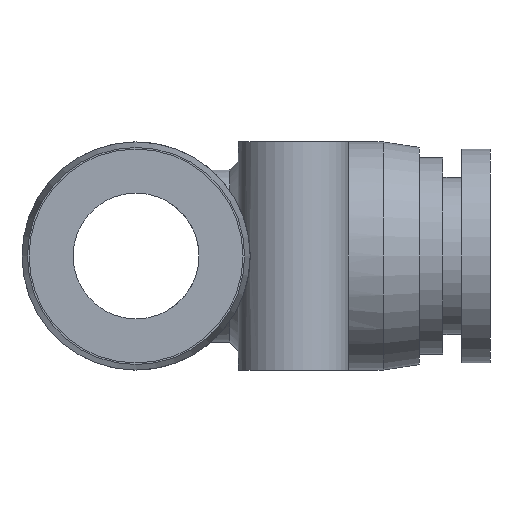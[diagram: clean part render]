
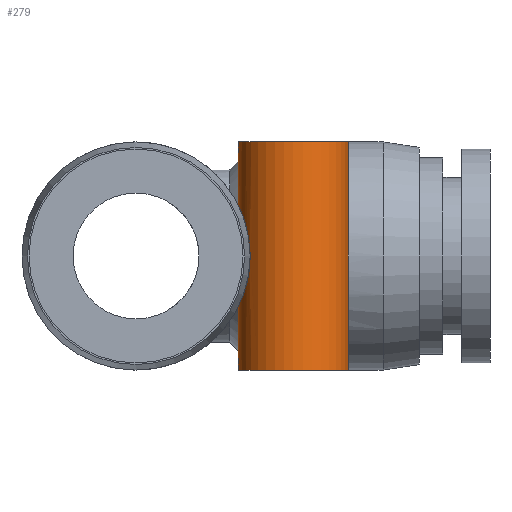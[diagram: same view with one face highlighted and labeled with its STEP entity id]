
A CAD part, left-side view. The second image highlights one B-rep face of the part: STEP entity #279.
In plain terms, the highlighted cylindrical face has radius 3.5 mm (diameter 7 mm), a full revolution.
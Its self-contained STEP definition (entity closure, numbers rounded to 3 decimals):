
#75=CARTESIAN_POINT('',(-7.233,-7.857,0.5));
#76=VERTEX_POINT('',#75);
#129=CARTESIAN_POINT('',(-7.857,-7.233,0.5));
#130=VERTEX_POINT('',#129);
#137=CARTESIAN_POINT('',(-10.0,-10.0,0.5));
#138=DIRECTION('',(0.0,0.0,1.0));
#139=DIRECTION('',(1.0,0.0,0.0));
#140=AXIS2_PLACEMENT_3D('',#137,#138,#139);
#141=CIRCLE('',#140,3.5);
#142=EDGE_CURVE('',#76,#130,#141,.T.);
#147=CARTESIAN_POINT('',(-10.0,-10.0,0.0));
#148=DIRECTION('',(0.0,0.0,-1.0));
#149=DIRECTION('',(1.0,0.0,0.0));
#150=AXIS2_PLACEMENT_3D('',#147,#148,#149);
#151=CYLINDRICAL_SURFACE('',#150,3.5);
#152=CARTESIAN_POINT('',(-13.5,-10.0,7.25));
#153=VERTEX_POINT('',#152);
#154=CARTESIAN_POINT('',(-10.0,-10.0,7.25));
#155=DIRECTION('',(0.0,0.0,1.0));
#156=DIRECTION('',(1.0,0.0,0.0));
#157=AXIS2_PLACEMENT_3D('',#154,#155,#156);
#158=CIRCLE('',#157,3.5);
#159=EDGE_CURVE('',#153,#153,#158,.T.);
#160=ORIENTED_EDGE('',*,*,#159,.F.);
#161=EDGE_LOOP('',(#160));
#162=FACE_OUTER_BOUND('',#161,.T.);
#163=CARTESIAN_POINT('',(-13.5,-10.0,-7.25));
#164=VERTEX_POINT('',#163);
#165=CARTESIAN_POINT('',(-10.0,-10.0,-7.25));
#166=DIRECTION('',(0.0,0.0,-1.0));
#167=DIRECTION('',(1.0,0.0,0.0));
#168=AXIS2_PLACEMENT_3D('',#165,#166,#167);
#169=CIRCLE('',#168,3.5);
#170=EDGE_CURVE('',#164,#164,#169,.T.);
#171=ORIENTED_EDGE('',*,*,#170,.F.);
#172=EDGE_LOOP('',(#171));
#173=FACE_BOUND('',#172,.T.);
#174=CARTESIAN_POINT('',(-7.233,-7.857,-0.5));
#175=VERTEX_POINT('',#174);
#176=CARTESIAN_POINT('',(-7.233,-7.857,0.5));
#177=CARTESIAN_POINT('',(-7.207,-7.891,0.878));
#178=CARTESIAN_POINT('',(-7.149,-7.964,1.258));
#179=CARTESIAN_POINT('',(-7.011,-8.176,1.864));
#180=CARTESIAN_POINT('',(-6.942,-8.29,2.103));
#181=CARTESIAN_POINT('',(-6.798,-8.578,2.53));
#182=CARTESIAN_POINT('',(-6.723,-8.751,2.718));
#183=CARTESIAN_POINT('',(-6.614,-9.101,2.971));
#184=CARTESIAN_POINT('',(-6.572,-9.269,3.061));
#185=CARTESIAN_POINT('',(-6.515,-9.629,3.182));
#186=CARTESIAN_POINT('',(-6.5,-9.821,3.211));
#187=CARTESIAN_POINT('',(-6.5,-10.179,3.211));
#188=CARTESIAN_POINT('',(-6.515,-10.371,3.182));
#189=CARTESIAN_POINT('',(-6.572,-10.731,3.061));
#190=CARTESIAN_POINT('',(-6.614,-10.899,2.971));
#191=CARTESIAN_POINT('',(-6.723,-11.249,2.718));
#192=CARTESIAN_POINT('',(-6.798,-11.422,2.53));
#193=CARTESIAN_POINT('',(-6.942,-11.71,2.103));
#194=CARTESIAN_POINT('',(-7.011,-11.824,1.864));
#195=CARTESIAN_POINT('',(-7.185,-12.09,1.102));
#196=CARTESIAN_POINT('',(-7.25,-12.165,0.532));
#197=CARTESIAN_POINT('',(-7.25,-12.165,-0.532));
#198=CARTESIAN_POINT('',(-7.185,-12.09,-1.102));
#199=CARTESIAN_POINT('',(-7.011,-11.824,-1.864));
#200=CARTESIAN_POINT('',(-6.942,-11.71,-2.103));
#201=CARTESIAN_POINT('',(-6.798,-11.422,-2.53));
#202=CARTESIAN_POINT('',(-6.723,-11.249,-2.718));
#203=CARTESIAN_POINT('',(-6.614,-10.899,-2.971));
#204=CARTESIAN_POINT('',(-6.572,-10.731,-3.061));
#205=CARTESIAN_POINT('',(-6.515,-10.371,-3.182));
#206=CARTESIAN_POINT('',(-6.5,-10.179,-3.211));
#207=CARTESIAN_POINT('',(-6.5,-9.821,-3.211));
#208=CARTESIAN_POINT('',(-6.515,-9.629,-3.182));
#209=CARTESIAN_POINT('',(-6.572,-9.269,-3.061));
#210=CARTESIAN_POINT('',(-6.614,-9.101,-2.971));
#211=CARTESIAN_POINT('',(-6.723,-8.751,-2.718));
#212=CARTESIAN_POINT('',(-6.798,-8.578,-2.53));
#213=CARTESIAN_POINT('',(-6.942,-8.29,-2.103));
#214=CARTESIAN_POINT('',(-7.011,-8.176,-1.864));
#215=CARTESIAN_POINT('',(-7.149,-7.964,-1.258));
#216=CARTESIAN_POINT('',(-7.207,-7.891,-0.878));
#217=CARTESIAN_POINT('',(-7.233,-7.857,-0.5));
#218=B_SPLINE_CURVE_WITH_KNOTS('',3,(#176,#177,#178,#179,#180,#181,#182,#183,#184,#185,#186,#187,#188,#189,#190,#191,#192,#193,#194,#195,#196,#197,#198,#199,#200,#201,#202,#203,#204,#205,#206,#207,#208,#209,#210,#211,#212,#213,#214,#215,#216,#217),.UNSPECIFIED.,.F.,.U.,(4,2,2,2,2,2,2,2,2,2,2,2,2,2,2,2,2,2,2,2,4),(0.049,0.16,0.24,0.319,0.373,0.427,0.481,0.534,0.614,0.694,0.854,1.013,1.093,1.173,1.227,1.281,1.334,1.388,1.468,1.548,1.658),.UNSPECIFIED.);
#219=EDGE_CURVE('',#76,#175,#218,.T.);
#220=ORIENTED_EDGE('',*,*,#219,.F.);
#221=ORIENTED_EDGE('',*,*,#142,.T.);
#222=CARTESIAN_POINT('',(-7.857,-7.233,-0.5));
#223=VERTEX_POINT('',#222);
#224=CARTESIAN_POINT('',(-7.857,-7.233,-0.5));
#225=CARTESIAN_POINT('',(-7.891,-7.207,-0.878));
#226=CARTESIAN_POINT('',(-7.964,-7.149,-1.258));
#227=CARTESIAN_POINT('',(-8.176,-7.011,-1.864));
#228=CARTESIAN_POINT('',(-8.29,-6.942,-2.103));
#229=CARTESIAN_POINT('',(-8.578,-6.798,-2.53));
#230=CARTESIAN_POINT('',(-8.751,-6.723,-2.718));
#231=CARTESIAN_POINT('',(-9.101,-6.614,-2.971));
#232=CARTESIAN_POINT('',(-9.269,-6.572,-3.061));
#233=CARTESIAN_POINT('',(-9.629,-6.515,-3.182));
#234=CARTESIAN_POINT('',(-9.821,-6.5,-3.211));
#235=CARTESIAN_POINT('',(-10.179,-6.5,-3.211));
#236=CARTESIAN_POINT('',(-10.371,-6.515,-3.182));
#237=CARTESIAN_POINT('',(-10.731,-6.572,-3.061));
#238=CARTESIAN_POINT('',(-10.899,-6.614,-2.971));
#239=CARTESIAN_POINT('',(-11.249,-6.723,-2.718));
#240=CARTESIAN_POINT('',(-11.422,-6.798,-2.53));
#241=CARTESIAN_POINT('',(-11.71,-6.942,-2.103));
#242=CARTESIAN_POINT('',(-11.824,-7.011,-1.864));
#243=CARTESIAN_POINT('',(-12.09,-7.185,-1.102));
#244=CARTESIAN_POINT('',(-12.165,-7.25,-0.532));
#245=CARTESIAN_POINT('',(-12.165,-7.25,0.0));
#246=CARTESIAN_POINT('',(-12.165,-7.25,0.532));
#247=CARTESIAN_POINT('',(-12.09,-7.185,1.102));
#248=CARTESIAN_POINT('',(-11.824,-7.011,1.864));
#249=CARTESIAN_POINT('',(-11.71,-6.942,2.103));
#250=CARTESIAN_POINT('',(-11.422,-6.798,2.53));
#251=CARTESIAN_POINT('',(-11.249,-6.723,2.718));
#252=CARTESIAN_POINT('',(-10.899,-6.614,2.971));
#253=CARTESIAN_POINT('',(-10.731,-6.572,3.061));
#254=CARTESIAN_POINT('',(-10.371,-6.515,3.182));
#255=CARTESIAN_POINT('',(-10.179,-6.5,3.211));
#256=CARTESIAN_POINT('',(-9.821,-6.5,3.211));
#257=CARTESIAN_POINT('',(-9.629,-6.515,3.182));
#258=CARTESIAN_POINT('',(-9.269,-6.572,3.061));
#259=CARTESIAN_POINT('',(-9.101,-6.614,2.971));
#260=CARTESIAN_POINT('',(-8.751,-6.723,2.718));
#261=CARTESIAN_POINT('',(-8.578,-6.798,2.53));
#262=CARTESIAN_POINT('',(-8.29,-6.942,2.103));
#263=CARTESIAN_POINT('',(-8.176,-7.011,1.864));
#264=CARTESIAN_POINT('',(-7.964,-7.149,1.258));
#265=CARTESIAN_POINT('',(-7.891,-7.207,0.878));
#266=CARTESIAN_POINT('',(-7.857,-7.233,0.5));
#267=B_SPLINE_CURVE_WITH_KNOTS('',3,(#224,#225,#226,#227,#228,#229,#230,#231,#232,#233,#234,#235,#236,#237,#238,#239,#240,#241,#242,#243,#244,#245,#246,#247,#248,#249,#250,#251,#252,#253,#254,#255,#256,#257,#258,#259,#260,#261,#262,#263,#264,#265,#266),.UNSPECIFIED.,.F.,.U.,(4,2,2,2,2,2,2,2,2,2,3,2,2,2,2,2,2,2,2,2,4),(0.903,1.013,1.093,1.173,1.227,1.281,1.334,1.388,1.468,1.548,1.707,1.867,1.947,2.027,2.081,2.134,2.188,2.242,2.322,2.401,2.512),.UNSPECIFIED.);
#268=EDGE_CURVE('',#223,#130,#267,.T.);
#269=ORIENTED_EDGE('',*,*,#268,.F.);
#270=CARTESIAN_POINT('',(-10.0,-10.0,-0.5));
#271=DIRECTION('',(0.0,0.0,-1.0));
#272=DIRECTION('',(1.0,0.0,0.0));
#273=AXIS2_PLACEMENT_3D('',#270,#271,#272);
#274=CIRCLE('',#273,3.5);
#275=EDGE_CURVE('',#223,#175,#274,.T.);
#276=ORIENTED_EDGE('',*,*,#275,.T.);
#277=EDGE_LOOP('',(#220,#221,#269,#276));
#278=FACE_BOUND('',#277,.T.);
#279=ADVANCED_FACE('',(#162,#173,#278),#151,.T.);
